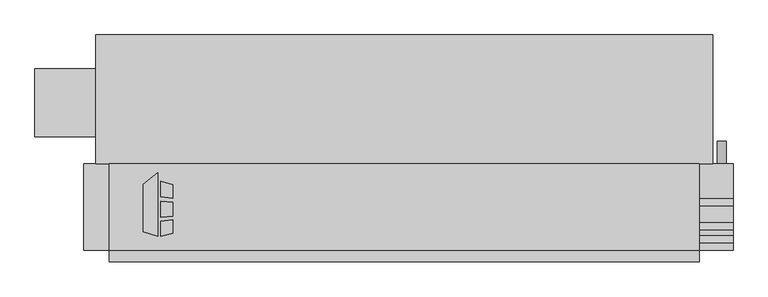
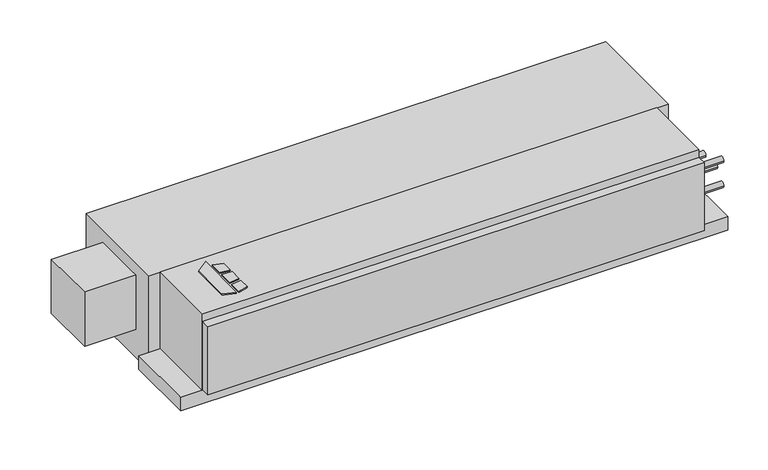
"""IFC4 building model written with IfcOpenShell, lengths in millimetres: proxy geometry, Concealed_Horizontal_Fan_Coil_Unit_With_Plenum_-_CPY_-_IEC_-_4-Pipe_RH_2022 : Size 10 - 277v/60Hz/1Ph - 4/1 Coil."""

from ifc_helpers import new_model, si_unit, point, frame, frame_2d, origin, origin_with_axes, place, context, project, spatial, polyline, circle_curve, trimmed, segment, composite_curve, outline, extrude, source, transform, mapped, element, save


def mechanical_equipment_8496716b(model_context):
    return source(origin(), model_context, "Body", "SweptSolid", [
        extrude(outline(polyline([(-431.8, -186.6953476), (-399.2417033, -161.2580184), (-399.2417033, -303.2125), (-431.8, -292.9929201), (-431.8, -186.6953476)])), origin_with_axes(), (0.0, 0.0, 1.0), 3.175),
        extrude(outline(polyline([(-392.4833703, -214.567352), (-392.4833703, -180.0874379), (-366.4019761, -188.2740115), (-366.4019761, -217.7697446), (-392.4833703, -214.567352)])), origin_with_axes(), (0.0, 0.0, 1.0), 3.175),
        extrude(outline(polyline([(-366.4019761, -296.2240115), (-392.4833703, -303.2125), (-392.4833703, -269.9911996), (-366.4019761, -266.4493564), (-366.4019761, -296.2240115)])), origin_with_axes(), (0.0, 0.0, 1.0), 3.175),
        extrude(outline(polyline([(-366.4019761, -226.8513277), (-366.4019761, -258.101483), (-392.4833703, -260.842748), (-392.4833703, -224.9850378), (-366.4019761, -226.8513277)])), origin_with_axes(), (0.0, 0.0, 1.0), 3.175),
        extrude(outline(composite_curve([segment(trimmed(circle_curve(frame_2d((-241.3, 863.6)), 9.525), [point((-241.3, 854.075))], [point((-241.3, 873.125))], False, "CARTESIAN"), True, "CONTINUOUS"), segment(trimmed(circle_curve(frame_2d((-241.3, 863.6)), 9.525), [point((-241.3, 873.125))], [point((-241.3, 854.075))], False, "CARTESIAN"), True, "CONTINUOUS")], self_intersect=False)), frame((0.0, -141.2875, 0.0), z_axis=(0.0, 1.0, 0.0), x_axis=(0.0, 0.0, 1.0)), (0.0, 0.0, 1.0), 50.8),
        extrude(outline(composite_curve([segment(trimmed(circle_curve(frame_2d((-309.5625, -69.85)), 7.9375), [point((-317.5, -69.85))], [point((-301.625, -69.85))], False, "CARTESIAN"), True, "CONTINUOUS"), segment(trimmed(circle_curve(frame_2d((-309.5625, -69.85)), 7.9375), [point((-301.625, -69.85))], [point((-317.5, -69.85))], False, "CARTESIAN"), True, "CONTINUOUS")], self_intersect=False)), frame((812.8, 0.0, 0.0), z_axis=(1.0, 0.0, 0.0), x_axis=(0.0, 1.0, 0.0)), (0.0, 0.0, 1.0), 76.2),
        extrude(outline(composite_curve([segment(trimmed(circle_curve(frame_2d((-309.5625, -139.7)), 7.9375), [point((-317.5, -139.7))], [point((-301.625, -139.7))], False, "CARTESIAN"), True, "CONTINUOUS"), segment(trimmed(circle_curve(frame_2d((-309.5625, -139.7)), 7.9375), [point((-301.625, -139.7))], [point((-317.5, -139.7))], False, "CARTESIAN"), True, "CONTINUOUS")], self_intersect=False)), frame((812.8, 0.0, 0.0), z_axis=(1.0, 0.0, 0.0), x_axis=(0.0, 1.0, 0.0)), (0.0, 0.0, 1.0), 76.2),
        extrude(outline(composite_curve([segment(trimmed(circle_curve(frame_2d((-227.0125, -104.775)), 7.9375), [point((-234.95, -104.775))], [point((-219.075, -104.775))], False, "CARTESIAN"), True, "CONTINUOUS"), segment(trimmed(circle_curve(frame_2d((-227.0125, -104.775)), 7.9375), [point((-219.075, -104.775))], [point((-234.95, -104.775))], False, "CARTESIAN"), True, "CONTINUOUS")], self_intersect=False)), frame((812.8, 0.0, 0.0), z_axis=(1.0, 0.0, 0.0), x_axis=(0.0, 1.0, 0.0)), (0.0, 0.0, 1.0), 76.2),
        extrude(outline(composite_curve([segment(trimmed(circle_curve(frame_2d((-280.9875, -104.775)), 7.9375), [point((-288.925, -104.775))], [point((-273.05, -104.775))], False, "CARTESIAN"), True, "CONTINUOUS"), segment(trimmed(circle_curve(frame_2d((-280.9875, -104.775)), 7.9375), [point((-273.05, -104.775))], [point((-288.925, -104.775))], False, "CARTESIAN"), True, "CONTINUOUS")], self_intersect=False)), frame((812.8, 0.0, 0.0), z_axis=(1.0, 0.0, 0.0), x_axis=(0.0, 1.0, 0.0)), (0.0, 0.0, 1.0), 76.2),
        extrude(outline(polyline([(812.8, -334.9625), (812.8, -360.3625), (-508.0, -360.3625), (-508.0, -334.9625), (812.8, -334.9625)])), frame((0.0, 0.0, -212.725), z_axis=(0.0, 0.0, 1.0), x_axis=(1.0, 0.0, 0.0)), (0.0, 0.0, 1.0), 190.5),
        extrude(outline(polyline([(812.8, -334.9625), (-508.0, -334.9625), (-508.0, -141.2875), (812.8, -141.2875), (812.8, -334.9625)])), frame((0.0, 0.0, -215.9), z_axis=(0.0, 0.0, 1.0), x_axis=(1.0, 0.0, 0.0)), (0.0, 0.0, 1.0), 215.9),
        extrude(outline(polyline([(889.0, -141.2875), (889.0, -334.9625), (-565.15, -334.9625), (-565.15, -141.2875), (889.0, -141.2875)])), frame((0.0, 0.0, -254.0), z_axis=(0.0, 0.0, 1.0), x_axis=(1.0, 0.0, 0.0)), (0.0, 0.0, 1.0), 38.1),
        extrude(outline(polyline([(-674.6875, -80.9625), (-674.6875, 71.4375), (-538.1625, 71.4375), (-538.1625, -80.9625), (-674.6875, -80.9625)])), frame((0.0, 0.0, -187.325), z_axis=(0.0, 0.0, 1.0), x_axis=(1.0, 0.0, 0.0)), (0.0, 0.0, 1.0), 152.4),
        extrude(outline(polyline([(-538.1625, 147.6375), (842.9625, 147.6375), (842.9625, -141.2875), (-538.1625, -141.2875), (-538.1625, 147.6375)])), frame((0.0, 0.0, -266.7), z_axis=(0.0, 0.0, 1.0), x_axis=(1.0, 0.0, 0.0)), (0.0, 0.0, 1.0), 266.7),
    ])


if __name__ == "__main__":
    model = new_model("IFC4")
    model_context = context("Model", 3, world=origin())
    ifc_project = project(units=[si_unit("LENGTHUNIT", "METRE", prefix="MILLI")], contexts=[model_context])
    site = spatial("IfcSite", under=ifc_project)
    building = spatial("IfcBuilding", under=site)
    placement = place(None, origin())
    mechanical_equipment_shape = mechanical_equipment_8496716b(model_context)
    element("IfcBuildingElementProxy", 1, Name="Concealed_Horizontal_Fan_Coil_Unit_With_Plenum_-_CPY_-_IEC_-_4-Pipe_RH_2022 : Size 10 - 277v/60Hz/1Ph - 4/1 Coil", ObjectType="Concealed_Horizontal_Fan_Coil_Unit_With_Plenum_-_CPY_-_IEC_-_4-Pipe_RH_2022 : Size 10 - 277v/60Hz/1Ph - 4/1 Coil", at=placement, inside=building, context=model_context, shape_type="MappedRepresentation", body=[
        mapped(mechanical_equipment_shape, transform((0.0, 0.0, 0.0), x_axis=(1.0, 0.0, 0.0), y_axis=(0.0, 1.0, 0.0), z_axis=(0.0, 0.0, 1.0))),
    ])
    save(model, "model.ifc")
